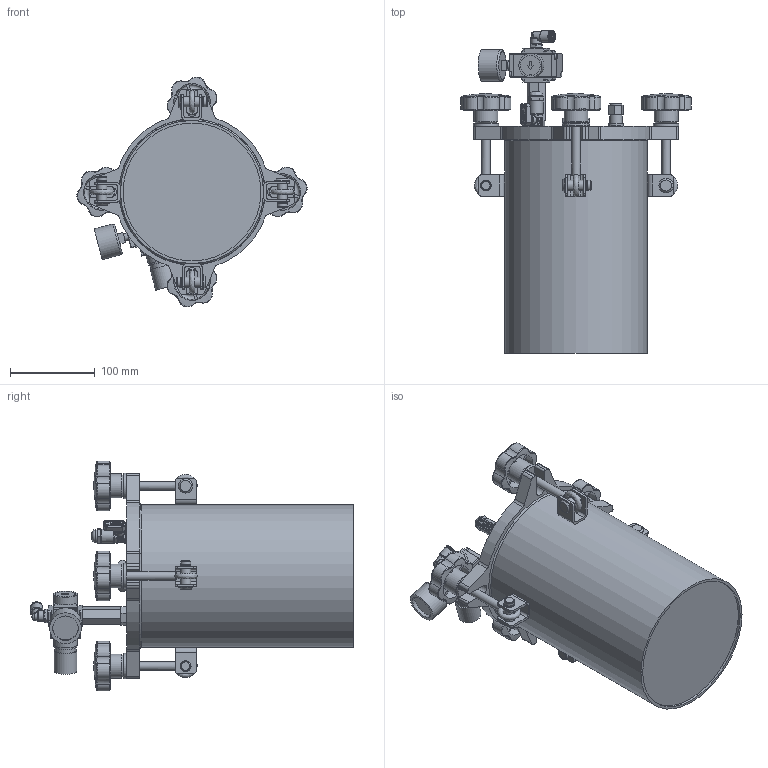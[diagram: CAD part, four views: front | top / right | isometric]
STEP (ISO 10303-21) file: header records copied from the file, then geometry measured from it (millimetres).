
FILE_DESCRIPTION (( 'STEP AP214' ), '1' );
FILE_NAME ('PT5.STEP', '2024-10-11T14:35:53', ( '' ), ( '' ), 'SwSTEP 2.0', 'SolidWorks 2024', '' );
FILE_SCHEMA (( 'AUTOMOTIVE_DESIGN' ));
Length unit declared in the file: millimetre
Products named in the file (1): PT5
Bounding box: 271.13 x 380 x 270.77 mm (x, y, z)
Volume: 1408634.6 mm3; surface area: 550304 mm2
Topology: 44 solids, 55 shells, 1414 faces, 3501 edges, 2266 vertices
Faces by surface type: plane 698, cylinder 340, bspline 212, cone 107, torus 53, sphere 4
Full cylindrical faces by diameter (mm): 1.9 x1, 2 x1, 3 x1, 4.5 x1, 5 x4, 5.5 x1, 5.6 x4, 6 x3, 6.15 x1, 7 x1, 7.4 x1, 7.5 x1, 8 x2, 8.15 x1, 8.3 x1, 8.376 x4, 8.566 x2, 9 x4, 9.4 x1, 10 x5, 10.4 x4, 11 x2, 11.2 x4, 11.445 x2, 11.5 x1, 11.6 x1, 11.7 x1, 11.8 x2, 12 x9, 12.5 x1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
Entity records: 72777 total; most frequent: CARTESIAN_POINT 41717, ORIENTED_EDGE 6376, DIRECTION 5637, EDGE_CURVE 3188, VERTEX_POINT 2171, AXIS2_PLACEMENT_3D 1998, EDGE_LOOP 1757, VECTOR 1641
